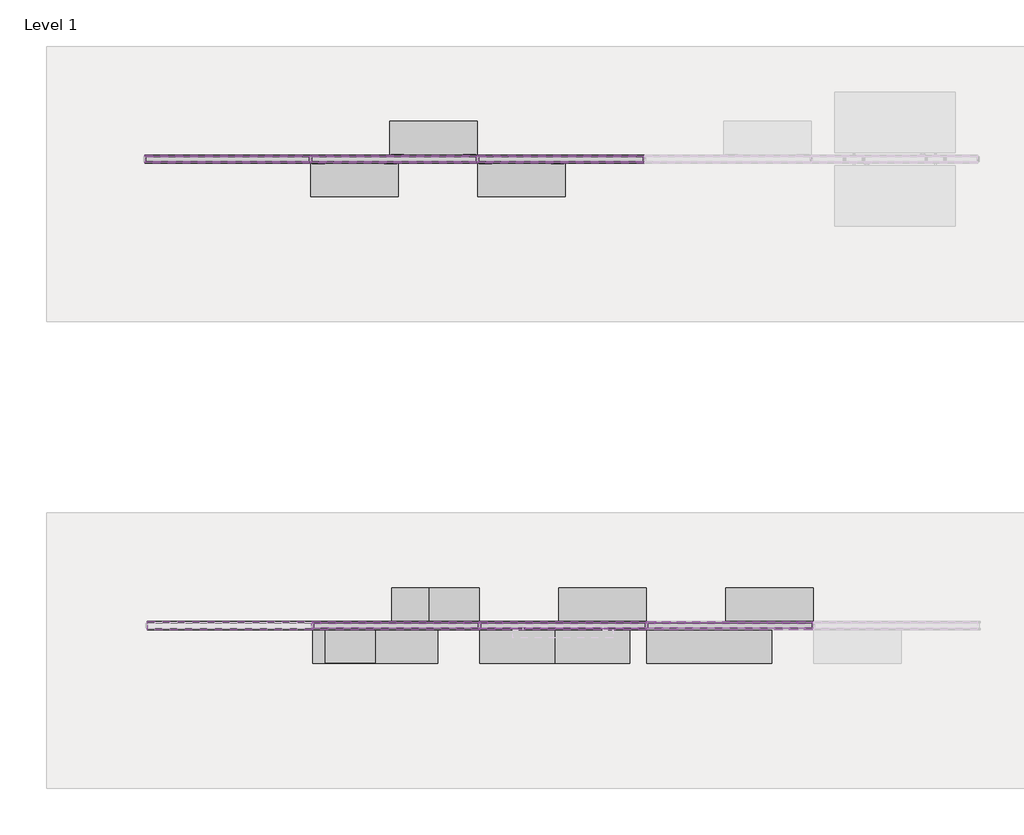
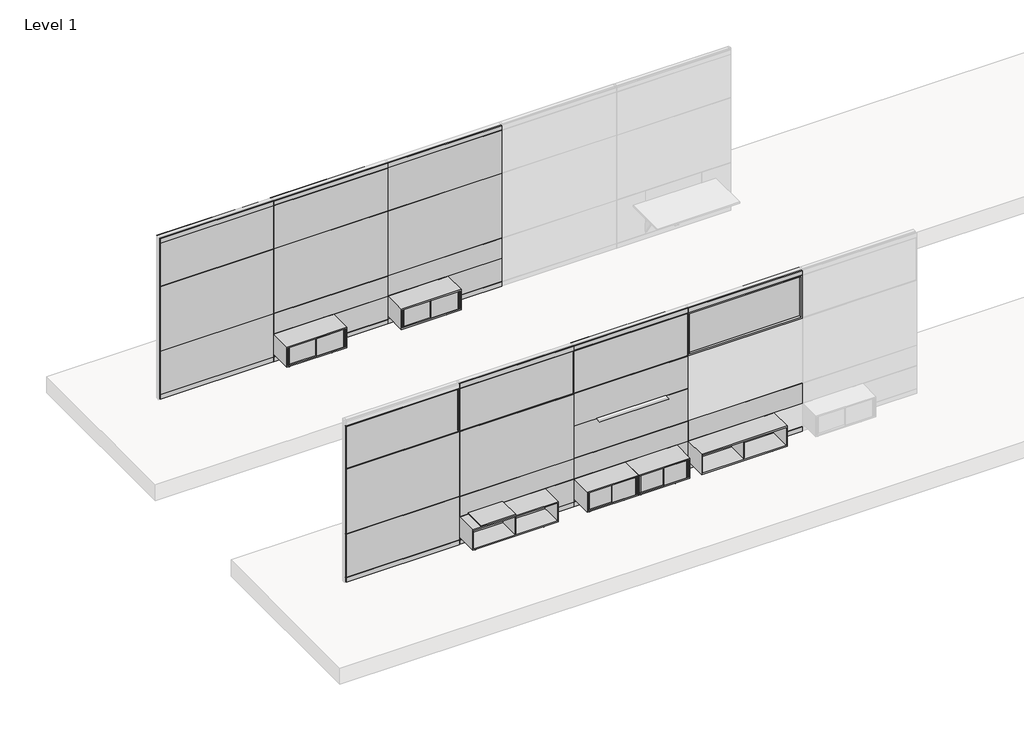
# One storey, part 5 of 13: 100 proxies, 12 furniture elements.
"""IFC4 building model written with IfcOpenShell, lengths in millimetres."""

from ifc_helpers import new_model, si_unit, origin, place, context, project, spatial, transform, mapped, element, save
from components import fascia_teknion_ceiling_and_base_ffb1_eec853f0, fascia_teknion_ceiling_and_base_ffb1_01755f40, fascia_teknion_ceiling_and_base_ffb1_57c76872, fascia_teknion_ceiling_and_base_ffb1_68f9ae85, frame_teknion_horizontal_rail_fkk_5c31f45b, frame_teknion_horizontal_rail_fkk_aab90c89, glass_fascia_dc85a8b2, glass_fascia_e9c48712, glass_fascia_e3078b55, panel_fascia_teknion_level_i_ec07af2e, panel_fascia_teknion_level_i_6b417b37, level_i_42ece40d, level_i_bottom_1aac6edf, level_i_bottom_7d6acad2, level_i_top_09e36e50, level_i_top_83d707e0, panel_fascia_teknion_level_ii_750ba18f, level_ii_bdfab47d, level_ii_231fb084, level_ii_554533ae, level_ii_bottom_3c53565b, panel_fascia_teknion_level_iii_34db1994, panel_fascia_teknion_level_iii_4fd3d2fe, level_iii_45eca7cc, level_iii_4951afc5, furniture_ea6b8f62, furniture_1aa36cc6, furniture_9e8aaa73, furniture_d19da1b5

model = new_model("IFC4")

# Units and contexts
model_context = context("Model", 3, world=origin())
ifc_project = project(units=[si_unit("LENGTHUNIT", "METRE", prefix="MILLI")], contexts=[model_context])

# Site, building, storey
site = spatial("IfcSite", under=ifc_project)
building = spatial("IfcBuilding", under=site)
storey = spatial("IfcBuildingStorey", under=building, Name="Level 1", Elevation=0.0)

# Proxies
placement = place(None, origin())
fascia_teknion_ceiling_and_base_ffb1_shape = fascia_teknion_ceiling_and_base_ffb1_eec853f0(model_context)
element("IfcBuildingElementProxy", 1, Name="Fascia-Teknion-Ceiling_and_Base : FFB1", ObjectType="Fascia-Teknion-Ceiling_and_Base : FFB1", at=placement, inside=storey, context=model_context, shape_type="MappedRepresentation", body=[
    mapped(fascia_teknion_ceiling_and_base_ffb1_shape, transform((-44846.9120053, 21833.4449796, 15.875), x_axis=(1.0, 0.0, 0.0), y_axis=(0.0, 1.0, 0.0), z_axis=(0.0, 0.0, 1.0))),
])
fascia_teknion_ceiling_and_base_ffb1_2_shape = fascia_teknion_ceiling_and_base_ffb1_01755f40(model_context)
element("IfcBuildingElementProxy", 2, Name="Fascia-Teknion-Ceiling_and_Base : FFB1", ObjectType="Fascia-Teknion-Ceiling_and_Base : FFB1", at=placement, inside=storey, context=model_context, shape_type="MappedRepresentation", body=[
    mapped(fascia_teknion_ceiling_and_base_ffb1_2_shape, transform((-44821.5120053, 16089.7429796, 15.875), x_axis=(1.0, 0.0, 0.0), y_axis=(0.0, 1.0, 0.0), z_axis=(0.0, 0.0, 1.0))),
])
element("IfcBuildingElementProxy", 3, Name="Fascia-Teknion-Ceiling_and_Base : FFB1", ObjectType="Fascia-Teknion-Ceiling_and_Base : FFB1", at=placement, inside=storey, context=model_context, shape_type="MappedRepresentation", body=[
    mapped(fascia_teknion_ceiling_and_base_ffb1_2_shape, transform((-44846.9120053, 21771.4689796, 15.875), x_axis=(1.0, 0.0, 0.0), y_axis=(0.0, 1.0, 0.0), z_axis=(0.0, 0.0, 1.0))),
])
fascia_teknion_ceiling_and_base_ffb1_3_shape = fascia_teknion_ceiling_and_base_ffb1_57c76872(model_context)
element("IfcBuildingElementProxy", 4, Name="Fascia-Teknion-Ceiling_and_Base : FFB1", ObjectType="Fascia-Teknion-Ceiling_and_Base : FFB1", at=placement, inside=storey, context=model_context, shape_type="MappedRepresentation", body=[
    mapped(fascia_teknion_ceiling_and_base_ffb1_3_shape, transform((-42796.5069272, 16151.7189796, 15.875), x_axis=(1.0, 0.0, 0.0), y_axis=(0.0, 1.0, 0.0), z_axis=(0.0, 0.0, 1.0))),
])
element("IfcBuildingElementProxy", 5, Name="Fascia-Teknion-Ceiling_and_Base : FFB1", ObjectType="Fascia-Teknion-Ceiling_and_Base : FFB1", at=placement, inside=storey, context=model_context, shape_type="MappedRepresentation", body=[
    mapped(fascia_teknion_ceiling_and_base_ffb1_3_shape, transform((-40764.5069272, 16151.7189796, 15.875), x_axis=(1.0, 0.0, 0.0), y_axis=(0.0, 1.0, 0.0), z_axis=(0.0, 0.0, 1.0))),
])
element("IfcBuildingElementProxy", 6, Name="Fascia-Teknion-Ceiling_and_Base : FFB1", ObjectType="Fascia-Teknion-Ceiling_and_Base : FFB1", at=placement, inside=storey, context=model_context, shape_type="MappedRepresentation", body=[
    mapped(fascia_teknion_ceiling_and_base_ffb1_3_shape, transform((-38732.5069272, 16151.7189796, 15.875), x_axis=(1.0, 0.0, 0.0), y_axis=(0.0, 1.0, 0.0), z_axis=(0.0, 0.0, 1.0))),
])
element("IfcBuildingElementProxy", 7, Name="Fascia-Teknion-Ceiling_and_Base : FFB1", ObjectType="Fascia-Teknion-Ceiling_and_Base : FFB1", at=placement, inside=storey, context=model_context, shape_type="MappedRepresentation", body=[
    mapped(fascia_teknion_ceiling_and_base_ffb1_3_shape, transform((-42821.9069272, 21833.4449796, 15.875), x_axis=(1.0, 0.0, 0.0), y_axis=(0.0, 1.0, 0.0), z_axis=(0.0, 0.0, 1.0))),
])
element("IfcBuildingElementProxy", 8, Name="Fascia-Teknion-Ceiling_and_Base : FFB1", ObjectType="Fascia-Teknion-Ceiling_and_Base : FFB1", at=placement, inside=storey, context=model_context, shape_type="MappedRepresentation", body=[
    mapped(fascia_teknion_ceiling_and_base_ffb1_3_shape, transform((-40789.9069272, 21833.4449796, 15.875), x_axis=(1.0, 0.0, 0.0), y_axis=(0.0, 1.0, 0.0), z_axis=(0.0, 0.0, 1.0))),
])
fascia_teknion_ceiling_and_base_ffb1_4_shape = fascia_teknion_ceiling_and_base_ffb1_68f9ae85(model_context)
element("IfcBuildingElementProxy", 9, Name="Fascia-Teknion-Ceiling_and_Base : FFB1", ObjectType="Fascia-Teknion-Ceiling_and_Base : FFB1", at=placement, inside=storey, context=model_context, shape_type="MappedRepresentation", body=[
    mapped(fascia_teknion_ceiling_and_base_ffb1_4_shape, transform((-42796.5069272, 16089.7429796, 15.875), x_axis=(1.0, 0.0, 0.0), y_axis=(0.0, 1.0, 0.0), z_axis=(0.0, 0.0, 1.0))),
])
element("IfcBuildingElementProxy", 10, Name="Fascia-Teknion-Ceiling_and_Base : FFB1", ObjectType="Fascia-Teknion-Ceiling_and_Base : FFB1", at=placement, inside=storey, context=model_context, shape_type="MappedRepresentation", body=[
    mapped(fascia_teknion_ceiling_and_base_ffb1_4_shape, transform((-40764.5069272, 16089.7429796, 15.875), x_axis=(1.0, 0.0, 0.0), y_axis=(0.0, 1.0, 0.0), z_axis=(0.0, 0.0, 1.0))),
])
element("IfcBuildingElementProxy", 11, Name="Fascia-Teknion-Ceiling_and_Base : FFB1", ObjectType="Fascia-Teknion-Ceiling_and_Base : FFB1", at=placement, inside=storey, context=model_context, shape_type="MappedRepresentation", body=[
    mapped(fascia_teknion_ceiling_and_base_ffb1_4_shape, transform((-38732.5069272, 16089.7429796, 15.875), x_axis=(1.0, 0.0, 0.0), y_axis=(0.0, 1.0, 0.0), z_axis=(0.0, 0.0, 1.0))),
])
element("IfcBuildingElementProxy", 12, Name="Fascia-Teknion-Ceiling_and_Base : FFB1", ObjectType="Fascia-Teknion-Ceiling_and_Base : FFB1", at=placement, inside=storey, context=model_context, shape_type="MappedRepresentation", body=[
    mapped(fascia_teknion_ceiling_and_base_ffb1_4_shape, transform((-42821.9069272, 21771.4689796, 15.875), x_axis=(1.0, 0.0, 0.0), y_axis=(0.0, 1.0, 0.0), z_axis=(0.0, 0.0, 1.0))),
])
element("IfcBuildingElementProxy", 13, Name="Fascia-Teknion-Ceiling_and_Base : FFB1", ObjectType="Fascia-Teknion-Ceiling_and_Base : FFB1", at=placement, inside=storey, context=model_context, shape_type="MappedRepresentation", body=[
    mapped(fascia_teknion_ceiling_and_base_ffb1_4_shape, transform((-40789.9069272, 21771.4689796, 15.875), x_axis=(1.0, 0.0, 0.0), y_axis=(0.0, 1.0, 0.0), z_axis=(0.0, 0.0, 1.0))),
])
element("IfcBuildingElementProxy", 14, Name="Fascia-Teknion-Ceiling_and_Base : FFC", ObjectType="Fascia-Teknion-Ceiling_and_Base : FFC", at=placement, inside=storey, context=model_context, shape_type="MappedRepresentation", body=[
    mapped(fascia_teknion_ceiling_and_base_ffb1_shape, transform((-44846.9120053, 21833.4449796, 2950.845), x_axis=(1.0, 0.0, 0.0), y_axis=(0.0, 1.0, 0.0), z_axis=(0.0, 0.0, 1.0))),
])
element("IfcBuildingElementProxy", 15, Name="Fascia-Teknion-Ceiling_and_Base : FFC", ObjectType="Fascia-Teknion-Ceiling_and_Base : FFC", at=placement, inside=storey, context=model_context, shape_type="MappedRepresentation", body=[
    mapped(fascia_teknion_ceiling_and_base_ffb1_2_shape, transform((-44846.9120053, 21771.4689796, 2950.845), x_axis=(1.0, 0.0, 0.0), y_axis=(0.0, 1.0, 0.0), z_axis=(0.0, 0.0, 1.0))),
])
element("IfcBuildingElementProxy", 16, Name="Fascia-Teknion-Ceiling_and_Base : FFC", ObjectType="Fascia-Teknion-Ceiling_and_Base : FFC", at=placement, inside=storey, context=model_context, shape_type="MappedRepresentation", body=[
    mapped(fascia_teknion_ceiling_and_base_ffb1_3_shape, transform((-42821.9069272, 21833.4449796, 2950.845), x_axis=(1.0, 0.0, 0.0), y_axis=(0.0, 1.0, 0.0), z_axis=(0.0, 0.0, 1.0))),
])
element("IfcBuildingElementProxy", 17, Name="Fascia-Teknion-Ceiling_and_Base : FFC", ObjectType="Fascia-Teknion-Ceiling_and_Base : FFC", at=placement, inside=storey, context=model_context, shape_type="MappedRepresentation", body=[
    mapped(fascia_teknion_ceiling_and_base_ffb1_3_shape, transform((-40789.9069272, 21833.4449796, 2950.845), x_axis=(1.0, 0.0, 0.0), y_axis=(0.0, 1.0, 0.0), z_axis=(0.0, 0.0, 1.0))),
])
element("IfcBuildingElementProxy", 18, Name="Fascia-Teknion-Ceiling_and_Base : FFC", ObjectType="Fascia-Teknion-Ceiling_and_Base : FFC", at=placement, inside=storey, context=model_context, shape_type="MappedRepresentation", body=[
    mapped(fascia_teknion_ceiling_and_base_ffb1_3_shape, transform((-42796.5069272, 16151.7189796, 2950.845), x_axis=(1.0, 0.0, 0.0), y_axis=(0.0, 1.0, 0.0), z_axis=(0.0, 0.0, 1.0))),
])
element("IfcBuildingElementProxy", 19, Name="Fascia-Teknion-Ceiling_and_Base : FFC", ObjectType="Fascia-Teknion-Ceiling_and_Base : FFC", at=placement, inside=storey, context=model_context, shape_type="MappedRepresentation", body=[
    mapped(fascia_teknion_ceiling_and_base_ffb1_3_shape, transform((-40764.5069272, 16151.7189796, 2950.845), x_axis=(1.0, 0.0, 0.0), y_axis=(0.0, 1.0, 0.0), z_axis=(0.0, 0.0, 1.0))),
])
element("IfcBuildingElementProxy", 20, Name="Fascia-Teknion-Ceiling_and_Base : FFC", ObjectType="Fascia-Teknion-Ceiling_and_Base : FFC", at=placement, inside=storey, context=model_context, shape_type="MappedRepresentation", body=[
    mapped(fascia_teknion_ceiling_and_base_ffb1_3_shape, transform((-38732.5069272, 16151.7189796, 2950.845), x_axis=(1.0, 0.0, 0.0), y_axis=(0.0, 1.0, 0.0), z_axis=(0.0, 0.0, 1.0))),
])
element("IfcBuildingElementProxy", 21, Name="Fascia-Teknion-Ceiling_and_Base : FFC", ObjectType="Fascia-Teknion-Ceiling_and_Base : FFC", at=placement, inside=storey, context=model_context, shape_type="MappedRepresentation", body=[
    mapped(fascia_teknion_ceiling_and_base_ffb1_4_shape, transform((-42821.9069272, 21771.4689796, 2950.845), x_axis=(1.0, 0.0, 0.0), y_axis=(0.0, 1.0, 0.0), z_axis=(0.0, 0.0, 1.0))),
])
element("IfcBuildingElementProxy", 22, Name="Fascia-Teknion-Ceiling_and_Base : FFC", ObjectType="Fascia-Teknion-Ceiling_and_Base : FFC", at=placement, inside=storey, context=model_context, shape_type="MappedRepresentation", body=[
    mapped(fascia_teknion_ceiling_and_base_ffb1_4_shape, transform((-40789.9069272, 21771.4689796, 2950.845), x_axis=(1.0, 0.0, 0.0), y_axis=(0.0, 1.0, 0.0), z_axis=(0.0, 0.0, 1.0))),
])
element("IfcBuildingElementProxy", 23, Name="Fascia-Teknion-Ceiling_and_Base : FFC", ObjectType="Fascia-Teknion-Ceiling_and_Base : FFC", at=placement, inside=storey, context=model_context, shape_type="MappedRepresentation", body=[
    mapped(fascia_teknion_ceiling_and_base_ffb1_4_shape, transform((-42796.5069272, 16089.7429796, 2950.845), x_axis=(1.0, 0.0, 0.0), y_axis=(0.0, 1.0, 0.0), z_axis=(0.0, 0.0, 1.0))),
])
element("IfcBuildingElementProxy", 24, Name="Fascia-Teknion-Ceiling_and_Base : FFC", ObjectType="Fascia-Teknion-Ceiling_and_Base : FFC", at=placement, inside=storey, context=model_context, shape_type="MappedRepresentation", body=[
    mapped(fascia_teknion_ceiling_and_base_ffb1_4_shape, transform((-40764.5069272, 16089.7429796, 2950.845), x_axis=(1.0, 0.0, 0.0), y_axis=(0.0, 1.0, 0.0), z_axis=(0.0, 0.0, 1.0))),
])
element("IfcBuildingElementProxy", 25, Name="Fascia-Teknion-Ceiling_and_Base : FFC", ObjectType="Fascia-Teknion-Ceiling_and_Base : FFC", at=placement, inside=storey, context=model_context, shape_type="MappedRepresentation", body=[
    mapped(fascia_teknion_ceiling_and_base_ffb1_4_shape, transform((-38732.5069272, 16089.7429796, 2950.845), x_axis=(1.0, 0.0, 0.0), y_axis=(0.0, 1.0, 0.0), z_axis=(0.0, 0.0, 1.0))),
])
frame_teknion_horizontal_rail_fkk_shape = frame_teknion_horizontal_rail_fkk_5c31f45b(model_context)
element("IfcBuildingElementProxy", 26, Name="Frame-Teknion-Horizontal_Rail : FKK", ObjectType="Frame-Teknion-Horizontal_Rail : FKK", at=placement, inside=storey, context=model_context, shape_type="MappedRepresentation", body=[
    mapped(frame_teknion_horizontal_rail_fkk_shape, transform((-44846.9120053, 21802.4569796, 100.4514438), x_axis=(1.0, 0.0, 0.0), y_axis=(0.0, 1.0, 0.0), z_axis=(0.0, 0.0, 1.0))),
])
element("IfcBuildingElementProxy", 27, Name="Frame-Teknion-Horizontal_Rail : FKK", ObjectType="Frame-Teknion-Horizontal_Rail : FKK", at=placement, inside=storey, context=model_context, shape_type="MappedRepresentation", body=[
    mapped(frame_teknion_horizontal_rail_fkk_shape, transform((-44846.9120053, 21802.4569796, 2947.5374437), x_axis=(1.0, 0.0, 0.0), y_axis=(0.0, 1.0, 0.0), z_axis=(0.0, 0.0, 1.0))),
])
frame_teknion_horizontal_rail_fkk_2_shape = frame_teknion_horizontal_rail_fkk_aab90c89(model_context)
element("IfcBuildingElementProxy", 28, Name="Frame-Teknion-Horizontal_Rail : FKK", ObjectType="Frame-Teknion-Horizontal_Rail : FKK", at=placement, inside=storey, context=model_context, shape_type="MappedRepresentation", body=[
    mapped(frame_teknion_horizontal_rail_fkk_2_shape, transform((-42821.9069272, 21802.4569796, 100.4514438), x_axis=(1.0, 0.0, 0.0), y_axis=(0.0, 1.0, 0.0), z_axis=(0.0, 0.0, 1.0))),
])
element("IfcBuildingElementProxy", 29, Name="Frame-Teknion-Horizontal_Rail : FKK", ObjectType="Frame-Teknion-Horizontal_Rail : FKK", at=placement, inside=storey, context=model_context, shape_type="MappedRepresentation", body=[
    mapped(frame_teknion_horizontal_rail_fkk_2_shape, transform((-42821.9069272, 21802.4569796, 2947.5374437), x_axis=(1.0, 0.0, 0.0), y_axis=(0.0, 1.0, 0.0), z_axis=(0.0, 0.0, 1.0))),
])
element("IfcBuildingElementProxy", 30, Name="Frame-Teknion-Horizontal_Rail : FKK", ObjectType="Frame-Teknion-Horizontal_Rail : FKK", at=placement, inside=storey, context=model_context, shape_type="MappedRepresentation", body=[
    mapped(frame_teknion_horizontal_rail_fkk_2_shape, transform((-40789.9069272, 21802.4569796, 100.4514438), x_axis=(1.0, 0.0, 0.0), y_axis=(0.0, 1.0, 0.0), z_axis=(0.0, 0.0, 1.0))),
])
element("IfcBuildingElementProxy", 31, Name="Frame-Teknion-Horizontal_Rail : FKK", ObjectType="Frame-Teknion-Horizontal_Rail : FKK", at=placement, inside=storey, context=model_context, shape_type="MappedRepresentation", body=[
    mapped(frame_teknion_horizontal_rail_fkk_2_shape, transform((-40789.9069272, 21802.4569796, 2947.5374437), x_axis=(1.0, 0.0, 0.0), y_axis=(0.0, 1.0, 0.0), z_axis=(0.0, 0.0, 1.0))),
])
element("IfcBuildingElementProxy", 32, Name="Frame-Teknion-Horizontal_Rail : FKK", ObjectType="Frame-Teknion-Horizontal_Rail : FKK", at=placement, inside=storey, context=model_context, shape_type="MappedRepresentation", body=[
    mapped(frame_teknion_horizontal_rail_fkk_2_shape, transform((-42796.5069272, 16120.7309796, 100.4514438), x_axis=(1.0, 0.0, 0.0), y_axis=(0.0, 1.0, 0.0), z_axis=(0.0, 0.0, 1.0))),
])
element("IfcBuildingElementProxy", 33, Name="Frame-Teknion-Horizontal_Rail : FKK", ObjectType="Frame-Teknion-Horizontal_Rail : FKK", at=placement, inside=storey, context=model_context, shape_type="MappedRepresentation", body=[
    mapped(frame_teknion_horizontal_rail_fkk_2_shape, transform((-42796.5069272, 16120.7309796, 2947.5374437), x_axis=(1.0, 0.0, 0.0), y_axis=(0.0, 1.0, 0.0), z_axis=(0.0, 0.0, 1.0))),
])
element("IfcBuildingElementProxy", 34, Name="Frame-Teknion-Horizontal_Rail : FKK", ObjectType="Frame-Teknion-Horizontal_Rail : FKK", at=placement, inside=storey, context=model_context, shape_type="MappedRepresentation", body=[
    mapped(frame_teknion_horizontal_rail_fkk_2_shape, transform((-40764.5069272, 16120.7309796, 100.4514438), x_axis=(1.0, 0.0, 0.0), y_axis=(0.0, 1.0, 0.0), z_axis=(0.0, 0.0, 1.0))),
])
element("IfcBuildingElementProxy", 35, Name="Frame-Teknion-Horizontal_Rail : FKK", ObjectType="Frame-Teknion-Horizontal_Rail : FKK", at=placement, inside=storey, context=model_context, shape_type="MappedRepresentation", body=[
    mapped(frame_teknion_horizontal_rail_fkk_2_shape, transform((-40764.5069272, 16120.7309796, 2947.5374437), x_axis=(1.0, 0.0, 0.0), y_axis=(0.0, 1.0, 0.0), z_axis=(0.0, 0.0, 1.0))),
])
element("IfcBuildingElementProxy", 36, Name="Frame-Teknion-Horizontal_Rail : FKK", ObjectType="Frame-Teknion-Horizontal_Rail : FKK", at=placement, inside=storey, context=model_context, shape_type="MappedRepresentation", body=[
    mapped(frame_teknion_horizontal_rail_fkk_2_shape, transform((-38732.5069272, 16120.7309796, 100.4514438), x_axis=(1.0, 0.0, 0.0), y_axis=(0.0, 1.0, 0.0), z_axis=(0.0, 0.0, 1.0))),
])
element("IfcBuildingElementProxy", 37, Name="Frame-Teknion-Horizontal_Rail : FKK", ObjectType="Frame-Teknion-Horizontal_Rail : FKK", at=placement, inside=storey, context=model_context, shape_type="MappedRepresentation", body=[
    mapped(frame_teknion_horizontal_rail_fkk_2_shape, transform((-38732.5069272, 16120.7309796, 2947.5374437), x_axis=(1.0, 0.0, 0.0), y_axis=(0.0, 1.0, 0.0), z_axis=(0.0, 0.0, 1.0))),
])
element("IfcBuildingElementProxy", 38, Name="Frame-Teknion-Landscape_Horizontal_Rail : FLKH", ObjectType="Frame-Teknion-Landscape_Horizontal_Rail : FLKH", at=placement, inside=storey, context=model_context, shape_type="MappedRepresentation", body=[
    mapped(frame_teknion_horizontal_rail_fkk_shape, transform((-44846.9120053, 21802.4569796, 917.575), x_axis=(1.0, 0.0, 0.0), y_axis=(0.0, 1.0, 0.0), z_axis=(0.0, 0.0, 1.0))),
])
element("IfcBuildingElementProxy", 39, Name="Frame-Teknion-Landscape_Horizontal_Rail : FLKH", ObjectType="Frame-Teknion-Landscape_Horizontal_Rail : FLKH", at=placement, inside=storey, context=model_context, shape_type="MappedRepresentation", body=[
    mapped(frame_teknion_horizontal_rail_fkk_shape, transform((-44846.9120053, 21802.4569796, 2136.775), x_axis=(1.0, 0.0, 0.0), y_axis=(0.0, 1.0, 0.0), z_axis=(0.0, 0.0, 1.0))),
])
element("IfcBuildingElementProxy", 40, Name="Frame-Teknion-Landscape_Horizontal_Rail : FLKH", ObjectType="Frame-Teknion-Landscape_Horizontal_Rail : FLKH", at=placement, inside=storey, context=model_context, shape_type="MappedRepresentation", body=[
    mapped(frame_teknion_horizontal_rail_fkk_2_shape, transform((-42821.9069272, 21802.4569796, 917.575), x_axis=(1.0, 0.0, 0.0), y_axis=(0.0, 1.0, 0.0), z_axis=(0.0, 0.0, 1.0))),
])
element("IfcBuildingElementProxy", 41, Name="Frame-Teknion-Landscape_Horizontal_Rail : FLKH", ObjectType="Frame-Teknion-Landscape_Horizontal_Rail : FLKH", at=placement, inside=storey, context=model_context, shape_type="MappedRepresentation", body=[
    mapped(frame_teknion_horizontal_rail_fkk_2_shape, transform((-42821.9069272, 21802.4569796, 2136.775), x_axis=(1.0, 0.0, 0.0), y_axis=(0.0, 1.0, 0.0), z_axis=(0.0, 0.0, 1.0))),
])
element("IfcBuildingElementProxy", 42, Name="Frame-Teknion-Landscape_Horizontal_Rail : FLKH", ObjectType="Frame-Teknion-Landscape_Horizontal_Rail : FLKH", at=placement, inside=storey, context=model_context, shape_type="MappedRepresentation", body=[
    mapped(frame_teknion_horizontal_rail_fkk_2_shape, transform((-40789.9069272, 21802.4569796, 917.575), x_axis=(1.0, 0.0, 0.0), y_axis=(0.0, 1.0, 0.0), z_axis=(0.0, 0.0, 1.0))),
])
element("IfcBuildingElementProxy", 43, Name="Frame-Teknion-Landscape_Horizontal_Rail : FLKH", ObjectType="Frame-Teknion-Landscape_Horizontal_Rail : FLKH", at=placement, inside=storey, context=model_context, shape_type="MappedRepresentation", body=[
    mapped(frame_teknion_horizontal_rail_fkk_2_shape, transform((-40789.9069272, 21802.4569796, 2136.775), x_axis=(1.0, 0.0, 0.0), y_axis=(0.0, 1.0, 0.0), z_axis=(0.0, 0.0, 1.0))),
])
element("IfcBuildingElementProxy", 44, Name="Frame-Teknion-Landscape_Horizontal_Rail : FLKH", ObjectType="Frame-Teknion-Landscape_Horizontal_Rail : FLKH", at=placement, inside=storey, context=model_context, shape_type="MappedRepresentation", body=[
    mapped(frame_teknion_horizontal_rail_fkk_2_shape, transform((-42821.9069272, 21802.4569796, 536.575), x_axis=(1.0, 0.0, 0.0), y_axis=(0.0, 1.0, 0.0), z_axis=(0.0, 0.0, 1.0))),
])
element("IfcBuildingElementProxy", 45, Name="Frame-Teknion-Landscape_Horizontal_Rail : FLKH", ObjectType="Frame-Teknion-Landscape_Horizontal_Rail : FLKH", at=placement, inside=storey, context=model_context, shape_type="MappedRepresentation", body=[
    mapped(frame_teknion_horizontal_rail_fkk_2_shape, transform((-40789.9069272, 21802.4569796, 536.575), x_axis=(1.0, 0.0, 0.0), y_axis=(0.0, 1.0, 0.0), z_axis=(0.0, 0.0, 1.0))),
])
element("IfcBuildingElementProxy", 46, Name="Frame-Teknion-Landscape_Horizontal_Rail : FLKH", ObjectType="Frame-Teknion-Landscape_Horizontal_Rail : FLKH", at=placement, inside=storey, context=model_context, shape_type="MappedRepresentation", body=[
    mapped(frame_teknion_horizontal_rail_fkk_2_shape, transform((-42796.5069272, 16120.7309796, 917.575), x_axis=(1.0, 0.0, 0.0), y_axis=(0.0, 1.0, 0.0), z_axis=(0.0, 0.0, 1.0))),
])
element("IfcBuildingElementProxy", 47, Name="Frame-Teknion-Landscape_Horizontal_Rail : FLKH", ObjectType="Frame-Teknion-Landscape_Horizontal_Rail : FLKH", at=placement, inside=storey, context=model_context, shape_type="MappedRepresentation", body=[
    mapped(frame_teknion_horizontal_rail_fkk_2_shape, transform((-42796.5069272, 16120.7309796, 2136.775), x_axis=(1.0, 0.0, 0.0), y_axis=(0.0, 1.0, 0.0), z_axis=(0.0, 0.0, 1.0))),
])
element("IfcBuildingElementProxy", 48, Name="Frame-Teknion-Landscape_Horizontal_Rail : FLKH", ObjectType="Frame-Teknion-Landscape_Horizontal_Rail : FLKH", at=placement, inside=storey, context=model_context, shape_type="MappedRepresentation", body=[
    mapped(frame_teknion_horizontal_rail_fkk_2_shape, transform((-40764.5069272, 16120.7309796, 917.575), x_axis=(1.0, 0.0, 0.0), y_axis=(0.0, 1.0, 0.0), z_axis=(0.0, 0.0, 1.0))),
])
element("IfcBuildingElementProxy", 49, Name="Frame-Teknion-Landscape_Horizontal_Rail : FLKH", ObjectType="Frame-Teknion-Landscape_Horizontal_Rail : FLKH", at=placement, inside=storey, context=model_context, shape_type="MappedRepresentation", body=[
    mapped(frame_teknion_horizontal_rail_fkk_2_shape, transform((-40764.5069272, 16120.7309796, 2136.775), x_axis=(1.0, 0.0, 0.0), y_axis=(0.0, 1.0, 0.0), z_axis=(0.0, 0.0, 1.0))),
])
element("IfcBuildingElementProxy", 50, Name="Frame-Teknion-Landscape_Horizontal_Rail : FLKH", ObjectType="Frame-Teknion-Landscape_Horizontal_Rail : FLKH", at=placement, inside=storey, context=model_context, shape_type="MappedRepresentation", body=[
    mapped(frame_teknion_horizontal_rail_fkk_2_shape, transform((-38732.5069272, 16120.7309796, 917.575), x_axis=(1.0, 0.0, 0.0), y_axis=(0.0, 1.0, 0.0), z_axis=(0.0, 0.0, 1.0))),
])
element("IfcBuildingElementProxy", 51, Name="Frame-Teknion-Landscape_Horizontal_Rail : FLKH", ObjectType="Frame-Teknion-Landscape_Horizontal_Rail : FLKH", at=placement, inside=storey, context=model_context, shape_type="MappedRepresentation", body=[
    mapped(frame_teknion_horizontal_rail_fkk_2_shape, transform((-38732.5069272, 16120.7309796, 2136.775), x_axis=(1.0, 0.0, 0.0), y_axis=(0.0, 1.0, 0.0), z_axis=(0.0, 0.0, 1.0))),
])
element("IfcBuildingElementProxy", 52, Name="Frame-Teknion-Landscape_Horizontal_Rail : FLKH", ObjectType="Frame-Teknion-Landscape_Horizontal_Rail : FLKH", at=placement, inside=storey, context=model_context, shape_type="MappedRepresentation", body=[
    mapped(frame_teknion_horizontal_rail_fkk_2_shape, transform((-38732.5069272, 16120.7309796, 536.575), x_axis=(1.0, 0.0, 0.0), y_axis=(0.0, 1.0, 0.0), z_axis=(0.0, 0.0, 1.0))),
])
element("IfcBuildingElementProxy", 53, Name="Frame-Teknion-Landscape_Horizontal_Rail : FLKH", ObjectType="Frame-Teknion-Landscape_Horizontal_Rail : FLKH", at=placement, inside=storey, context=model_context, shape_type="MappedRepresentation", body=[
    mapped(frame_teknion_horizontal_rail_fkk_2_shape, transform((-42796.5069272, 16120.7309796, 536.575), x_axis=(1.0, 0.0, 0.0), y_axis=(0.0, 1.0, 0.0), z_axis=(0.0, 0.0, 1.0))),
])
element("IfcBuildingElementProxy", 54, Name="Frame-Teknion-Landscape_Horizontal_Rail : FLKH", ObjectType="Frame-Teknion-Landscape_Horizontal_Rail : FLKH", at=placement, inside=storey, context=model_context, shape_type="MappedRepresentation", body=[
    mapped(frame_teknion_horizontal_rail_fkk_2_shape, transform((-40764.5069272, 16120.7309796, 536.575), x_axis=(1.0, 0.0, 0.0), y_axis=(0.0, 1.0, 0.0), z_axis=(0.0, 0.0, 1.0))),
])
element("IfcBuildingElementProxy", 55, Name="Frame-Teknion-Landscape_Horizontal_Rail : FLKH", ObjectType="Frame-Teknion-Landscape_Horizontal_Rail : FLKH", at=placement, inside=storey, context=model_context, shape_type="MappedRepresentation", body=[
    mapped(frame_teknion_horizontal_rail_fkk_2_shape, transform((-40764.5069272, 16120.7309796, 1527.175), x_axis=(1.0, 0.0, 0.0), y_axis=(0.0, 1.0, 0.0), z_axis=(0.0, 0.0, 1.0))),
])
glass_fascia_shape = glass_fascia_dc85a8b2(model_context)
element("IfcBuildingElementProxy", 56, Name="Panel-Fascia-Teknion-Altos-Glass : Glass Fascia", ObjectType="Panel-Fascia-Teknion-Altos-Glass : Glass Fascia", at=placement, inside=storey, context=model_context, shape_type="MappedRepresentation", body=[
    mapped(glass_fascia_shape, transform((-44821.5120053, 16120.748839, 2136.775), x_axis=(1.0, 0.0, 0.0), y_axis=(0.0, 1.0, 0.0), z_axis=(0.0, 0.0, 1.0))),
])
glass_fascia_2_shape = glass_fascia_e9c48712(model_context)
element("IfcBuildingElementProxy", 57, Name="Panel-Fascia-Teknion-Altos-Glass : Glass Fascia", ObjectType="Panel-Fascia-Teknion-Altos-Glass : Glass Fascia", at=placement, inside=storey, context=model_context, shape_type="MappedRepresentation", body=[
    mapped(glass_fascia_2_shape, transform((-38732.5069272, 16120.748839, 2136.775), x_axis=(1.0, 0.0, 0.0), y_axis=(0.0, 1.0, 0.0), z_axis=(0.0, 0.0, 1.0))),
])
glass_fascia_3_shape = glass_fascia_e3078b55(model_context)
element("IfcBuildingElementProxy", 58, Name="Panel-Fascia-Teknion-Altos-Glass : Glass Fascia", ObjectType="Panel-Fascia-Teknion-Altos-Glass : Glass Fascia", at=placement, inside=storey, context=model_context, shape_type="MappedRepresentation", body=[
    mapped(glass_fascia_3_shape, transform((-42796.5069272, 16120.748839, 2136.775), x_axis=(1.0, 0.0, 0.0), y_axis=(0.0, 1.0, 0.0), z_axis=(0.0, 0.0, 1.0))),
])
element("IfcBuildingElementProxy", 59, Name="Panel-Fascia-Teknion-Altos-Glass : Glass Fascia", ObjectType="Panel-Fascia-Teknion-Altos-Glass : Glass Fascia", at=placement, inside=storey, context=model_context, shape_type="MappedRepresentation", body=[
    mapped(glass_fascia_3_shape, transform((-40764.5069272, 16120.748839, 2136.775), x_axis=(1.0, 0.0, 0.0), y_axis=(0.0, 1.0, 0.0), z_axis=(0.0, 0.0, 1.0))),
])
panel_fascia_teknion_level_i_shape = panel_fascia_teknion_level_i_ec07af2e(model_context)
element("IfcBuildingElementProxy", 60, Name="Panel-Fascia-Teknion-Altos-Landscape : Level I", ObjectType="Panel-Fascia-Teknion-Altos-Landscape : Level I", at=placement, inside=storey, context=model_context, shape_type="MappedRepresentation", body=[
    mapped(panel_fascia_teknion_level_i_shape, transform((-44846.9120053, 21842.9699796, 100.457), x_axis=(1.0, 0.0, 0.0), y_axis=(0.0, 1.0, 0.0), z_axis=(0.0, 0.0, 1.0))),
])
element("IfcBuildingElementProxy", 61, Name="Panel-Fascia-Teknion-Altos-Landscape : Level I", ObjectType="Panel-Fascia-Teknion-Altos-Landscape : Level I", at=placement, inside=storey, context=model_context, shape_type="MappedRepresentation", body=[
    mapped(panel_fascia_teknion_level_i_shape, transform((-44821.5120053, 16161.2439796, 100.457), x_axis=(1.0, 0.0, 0.0), y_axis=(0.0, 1.0, 0.0), z_axis=(0.0, 0.0, 1.0))),
])
panel_fascia_teknion_level_i_2_shape = panel_fascia_teknion_level_i_6b417b37(model_context)
element("IfcBuildingElementProxy", 62, Name="Panel-Fascia-Teknion-Altos-Landscape : Level I", ObjectType="Panel-Fascia-Teknion-Altos-Landscape : Level I", at=placement, inside=storey, context=model_context, shape_type="MappedRepresentation", body=[
    mapped(panel_fascia_teknion_level_i_2_shape, transform((-44846.9120053, 21761.9439796, 100.457), x_axis=(1.0, 0.0, 0.0), y_axis=(0.0, 1.0, 0.0), z_axis=(0.0, 0.0, 1.0))),
])
element("IfcBuildingElementProxy", 63, Name="Panel-Fascia-Teknion-Altos-Landscape : Level I", ObjectType="Panel-Fascia-Teknion-Altos-Landscape : Level I", at=placement, inside=storey, context=model_context, shape_type="MappedRepresentation", body=[
    mapped(panel_fascia_teknion_level_i_2_shape, transform((-44821.5120053, 16080.2179796, 100.457), x_axis=(1.0, 0.0, 0.0), y_axis=(0.0, 1.0, 0.0), z_axis=(0.0, 0.0, 1.0))),
])
level_i_shape = level_i_42ece40d(model_context)
element("IfcBuildingElementProxy", 64, Name="Panel-Fascia-Teknion-Altos-Landscape : Level I", ObjectType="Panel-Fascia-Teknion-Altos-Landscape : Level I", at=placement, inside=storey, context=model_context, shape_type="MappedRepresentation", body=[
    mapped(level_i_shape, transform((-40789.9069272, 21842.9699796, 100.457), x_axis=(1.0, 0.0, 0.0), y_axis=(0.0, 1.0, 0.0), z_axis=(0.0, 0.0, 1.0))),
])
level_i_bottom_shape = level_i_bottom_1aac6edf(model_context)
element("IfcBuildingElementProxy", 65, Name="Panel-Fascia-Teknion-Altos-Landscape : Level I Bottom", ObjectType="Panel-Fascia-Teknion-Altos-Landscape : Level I Bottom", at=placement, inside=storey, context=model_context, shape_type="MappedRepresentation", body=[
    mapped(level_i_bottom_shape, transform((-38732.5069272, 16161.2439796, 100.457), x_axis=(1.0, 0.0, 0.0), y_axis=(0.0, 1.0, 0.0), z_axis=(0.0, 0.0, 1.0))),
])
element("IfcBuildingElementProxy", 66, Name="Panel-Fascia-Teknion-Altos-Landscape : Level I Bottom", ObjectType="Panel-Fascia-Teknion-Altos-Landscape : Level I Bottom", at=placement, inside=storey, context=model_context, shape_type="MappedRepresentation", body=[
    mapped(level_i_bottom_shape, transform((-42821.9069272, 21842.9699796, 100.457), x_axis=(1.0, 0.0, 0.0), y_axis=(0.0, 1.0, 0.0), z_axis=(0.0, 0.0, 1.0))),
])
element("IfcBuildingElementProxy", 67, Name="Panel-Fascia-Teknion-Altos-Landscape : Level I Bottom", ObjectType="Panel-Fascia-Teknion-Altos-Landscape : Level I Bottom", at=placement, inside=storey, context=model_context, shape_type="MappedRepresentation", body=[
    mapped(level_i_bottom_shape, transform((-42796.5069272, 16161.2439796, 100.457), x_axis=(1.0, 0.0, 0.0), y_axis=(0.0, 1.0, 0.0), z_axis=(0.0, 0.0, 1.0))),
])
element("IfcBuildingElementProxy", 68, Name="Panel-Fascia-Teknion-Altos-Landscape : Level I Bottom", ObjectType="Panel-Fascia-Teknion-Altos-Landscape : Level I Bottom", at=placement, inside=storey, context=model_context, shape_type="MappedRepresentation", body=[
    mapped(level_i_bottom_shape, transform((-40764.5069272, 16161.2439796, 100.457), x_axis=(1.0, 0.0, 0.0), y_axis=(0.0, 1.0, 0.0), z_axis=(0.0, 0.0, 1.0))),
])
level_i_bottom_2_shape = level_i_bottom_7d6acad2(model_context)
element("IfcBuildingElementProxy", 69, Name="Panel-Fascia-Teknion-Altos-Landscape : Level I Bottom", ObjectType="Panel-Fascia-Teknion-Altos-Landscape : Level I Bottom", at=placement, inside=storey, context=model_context, shape_type="MappedRepresentation", body=[
    mapped(level_i_bottom_2_shape, transform((-42821.9069272, 21761.9439796, 100.457), x_axis=(1.0, 0.0, 0.0), y_axis=(0.0, 1.0, 0.0), z_axis=(0.0, 0.0, 1.0))),
])
element("IfcBuildingElementProxy", 70, Name="Panel-Fascia-Teknion-Altos-Landscape : Level I Bottom", ObjectType="Panel-Fascia-Teknion-Altos-Landscape : Level I Bottom", at=placement, inside=storey, context=model_context, shape_type="MappedRepresentation", body=[
    mapped(level_i_bottom_2_shape, transform((-40789.9069272, 21761.9439796, 100.457), x_axis=(1.0, 0.0, 0.0), y_axis=(0.0, 1.0, 0.0), z_axis=(0.0, 0.0, 1.0))),
])
element("IfcBuildingElementProxy", 71, Name="Panel-Fascia-Teknion-Altos-Landscape : Level I Bottom", ObjectType="Panel-Fascia-Teknion-Altos-Landscape : Level I Bottom", at=placement, inside=storey, context=model_context, shape_type="MappedRepresentation", body=[
    mapped(level_i_bottom_2_shape, transform((-42796.5069272, 16080.2179796, 100.457), x_axis=(1.0, 0.0, 0.0), y_axis=(0.0, 1.0, 0.0), z_axis=(0.0, 0.0, 1.0))),
])
element("IfcBuildingElementProxy", 72, Name="Panel-Fascia-Teknion-Altos-Landscape : Level I Bottom", ObjectType="Panel-Fascia-Teknion-Altos-Landscape : Level I Bottom", at=placement, inside=storey, context=model_context, shape_type="MappedRepresentation", body=[
    mapped(level_i_bottom_2_shape, transform((-40764.5069272, 16080.2179796, 100.457), x_axis=(1.0, 0.0, 0.0), y_axis=(0.0, 1.0, 0.0), z_axis=(0.0, 0.0, 1.0))),
])
level_i_top_shape = level_i_top_09e36e50(model_context)
element("IfcBuildingElementProxy", 73, Name="Panel-Fascia-Teknion-Altos-Landscape : Level I Top", ObjectType="Panel-Fascia-Teknion-Altos-Landscape : Level I Top", at=placement, inside=storey, context=model_context, shape_type="MappedRepresentation", body=[
    mapped(level_i_top_shape, transform((-38732.5069272, 16161.2439796, 536.575), x_axis=(1.0, 0.0, 0.0), y_axis=(0.0, 1.0, 0.0), z_axis=(0.0, 0.0, 1.0))),
])
element("IfcBuildingElementProxy", 74, Name="Panel-Fascia-Teknion-Altos-Landscape : Level I Top", ObjectType="Panel-Fascia-Teknion-Altos-Landscape : Level I Top", at=placement, inside=storey, context=model_context, shape_type="MappedRepresentation", body=[
    mapped(level_i_top_shape, transform((-42821.9069272, 21842.9699796, 536.575), x_axis=(1.0, 0.0, 0.0), y_axis=(0.0, 1.0, 0.0), z_axis=(0.0, 0.0, 1.0))),
])
element("IfcBuildingElementProxy", 75, Name="Panel-Fascia-Teknion-Altos-Landscape : Level I Top", ObjectType="Panel-Fascia-Teknion-Altos-Landscape : Level I Top", at=placement, inside=storey, context=model_context, shape_type="MappedRepresentation", body=[
    mapped(level_i_top_shape, transform((-42796.5069272, 16161.2439796, 536.575), x_axis=(1.0, 0.0, 0.0), y_axis=(0.0, 1.0, 0.0), z_axis=(0.0, 0.0, 1.0))),
])
element("IfcBuildingElementProxy", 76, Name="Panel-Fascia-Teknion-Altos-Landscape : Level I Top", ObjectType="Panel-Fascia-Teknion-Altos-Landscape : Level I Top", at=placement, inside=storey, context=model_context, shape_type="MappedRepresentation", body=[
    mapped(level_i_top_shape, transform((-40764.5069272, 16161.2439796, 536.575), x_axis=(1.0, 0.0, 0.0), y_axis=(0.0, 1.0, 0.0), z_axis=(0.0, 0.0, 1.0))),
])
level_i_top_2_shape = level_i_top_83d707e0(model_context)
element("IfcBuildingElementProxy", 77, Name="Panel-Fascia-Teknion-Altos-Landscape : Level I Top", ObjectType="Panel-Fascia-Teknion-Altos-Landscape : Level I Top", at=placement, inside=storey, context=model_context, shape_type="MappedRepresentation", body=[
    mapped(level_i_top_2_shape, transform((-38732.5069272, 16080.2179796, 536.575), x_axis=(1.0, 0.0, 0.0), y_axis=(0.0, 1.0, 0.0), z_axis=(0.0, 0.0, 1.0))),
])
element("IfcBuildingElementProxy", 78, Name="Panel-Fascia-Teknion-Altos-Landscape : Level I Top", ObjectType="Panel-Fascia-Teknion-Altos-Landscape : Level I Top", at=placement, inside=storey, context=model_context, shape_type="MappedRepresentation", body=[
    mapped(level_i_top_2_shape, transform((-42821.9069272, 21761.9439796, 536.575), x_axis=(1.0, 0.0, 0.0), y_axis=(0.0, 1.0, 0.0), z_axis=(0.0, 0.0, 1.0))),
])
element("IfcBuildingElementProxy", 79, Name="Panel-Fascia-Teknion-Altos-Landscape : Level I Top", ObjectType="Panel-Fascia-Teknion-Altos-Landscape : Level I Top", at=placement, inside=storey, context=model_context, shape_type="MappedRepresentation", body=[
    mapped(level_i_top_2_shape, transform((-40789.9069272, 21761.9439796, 536.575), x_axis=(1.0, 0.0, 0.0), y_axis=(0.0, 1.0, 0.0), z_axis=(0.0, 0.0, 1.0))),
])
element("IfcBuildingElementProxy", 80, Name="Panel-Fascia-Teknion-Altos-Landscape : Level I Top", ObjectType="Panel-Fascia-Teknion-Altos-Landscape : Level I Top", at=placement, inside=storey, context=model_context, shape_type="MappedRepresentation", body=[
    mapped(level_i_top_2_shape, transform((-42796.5069272, 16080.2179796, 536.575), x_axis=(1.0, 0.0, 0.0), y_axis=(0.0, 1.0, 0.0), z_axis=(0.0, 0.0, 1.0))),
])
element("IfcBuildingElementProxy", 81, Name="Panel-Fascia-Teknion-Altos-Landscape : Level I Top", ObjectType="Panel-Fascia-Teknion-Altos-Landscape : Level I Top", at=placement, inside=storey, context=model_context, shape_type="MappedRepresentation", body=[
    mapped(level_i_top_2_shape, transform((-40764.5069272, 16080.2179796, 536.575), x_axis=(1.0, 0.0, 0.0), y_axis=(0.0, 1.0, 0.0), z_axis=(0.0, 0.0, 1.0))),
])
panel_fascia_teknion_level_ii_shape = panel_fascia_teknion_level_ii_750ba18f(model_context)
element("IfcBuildingElementProxy", 82, Name="Panel-Fascia-Teknion-Altos-Landscape : Level II", ObjectType="Panel-Fascia-Teknion-Altos-Landscape : Level II", at=placement, inside=storey, context=model_context, shape_type="MappedRepresentation", body=[
    mapped(panel_fascia_teknion_level_ii_shape, transform((-44846.9120053, 21761.9439796, 917.575), x_axis=(1.0, 0.0, 0.0), y_axis=(0.0, 1.0, 0.0), z_axis=(0.0, 0.0, 1.0))),
])
element("IfcBuildingElementProxy", 83, Name="Panel-Fascia-Teknion-Altos-Landscape : Level II", ObjectType="Panel-Fascia-Teknion-Altos-Landscape : Level II", at=placement, inside=storey, context=model_context, shape_type="MappedRepresentation", body=[
    mapped(panel_fascia_teknion_level_ii_shape, transform((-44821.5120053, 16080.2179796, 917.575), x_axis=(1.0, 0.0, 0.0), y_axis=(0.0, 1.0, 0.0), z_axis=(0.0, 0.0, 1.0))),
])
level_ii_shape = level_ii_bdfab47d(model_context)
element("IfcBuildingElementProxy", 84, Name="Panel-Fascia-Teknion-Altos-Landscape : Level II", ObjectType="Panel-Fascia-Teknion-Altos-Landscape : Level II", at=placement, inside=storey, context=model_context, shape_type="MappedRepresentation", body=[
    mapped(level_ii_shape, transform((-44846.9120053, 21842.9699796, 917.575), x_axis=(1.0, 0.0, 0.0), y_axis=(0.0, 1.0, 0.0), z_axis=(0.0, 0.0, 1.0))),
])
element("IfcBuildingElementProxy", 85, Name="Panel-Fascia-Teknion-Altos-Landscape : Level II", ObjectType="Panel-Fascia-Teknion-Altos-Landscape : Level II", at=placement, inside=storey, context=model_context, shape_type="MappedRepresentation", body=[
    mapped(level_ii_shape, transform((-44821.5120053, 16161.2439796, 917.575), x_axis=(1.0, 0.0, 0.0), y_axis=(0.0, 1.0, 0.0), z_axis=(0.0, 0.0, 1.0))),
])
level_ii_2_shape = level_ii_231fb084(model_context)
element("IfcBuildingElementProxy", 86, Name="Panel-Fascia-Teknion-Altos-Landscape : Level II", ObjectType="Panel-Fascia-Teknion-Altos-Landscape : Level II", at=placement, inside=storey, context=model_context, shape_type="MappedRepresentation", body=[
    mapped(level_ii_2_shape, transform((-42821.9069272, 21761.9439796, 917.575), x_axis=(1.0, 0.0, 0.0), y_axis=(0.0, 1.0, 0.0), z_axis=(0.0, 0.0, 1.0))),
])
element("IfcBuildingElementProxy", 87, Name="Panel-Fascia-Teknion-Altos-Landscape : Level II", ObjectType="Panel-Fascia-Teknion-Altos-Landscape : Level II", at=placement, inside=storey, context=model_context, shape_type="MappedRepresentation", body=[
    mapped(level_ii_2_shape, transform((-40789.9069272, 21761.9439796, 917.575), x_axis=(1.0, 0.0, 0.0), y_axis=(0.0, 1.0, 0.0), z_axis=(0.0, 0.0, 1.0))),
])
element("IfcBuildingElementProxy", 88, Name="Panel-Fascia-Teknion-Altos-Landscape : Level II", ObjectType="Panel-Fascia-Teknion-Altos-Landscape : Level II", at=placement, inside=storey, context=model_context, shape_type="MappedRepresentation", body=[
    mapped(level_ii_2_shape, transform((-42796.5069272, 16080.2179796, 917.575), x_axis=(1.0, 0.0, 0.0), y_axis=(0.0, 1.0, 0.0), z_axis=(0.0, 0.0, 1.0))),
])
level_ii_3_shape = level_ii_554533ae(model_context)
element("IfcBuildingElementProxy", 89, Name="Panel-Fascia-Teknion-Altos-Landscape : Level II", ObjectType="Panel-Fascia-Teknion-Altos-Landscape : Level II", at=placement, inside=storey, context=model_context, shape_type="MappedRepresentation", body=[
    mapped(level_ii_3_shape, transform((-42821.9069272, 21842.9699796, 917.575), x_axis=(1.0, 0.0, 0.0), y_axis=(0.0, 1.0, 0.0), z_axis=(0.0, 0.0, 1.0))),
])
element("IfcBuildingElementProxy", 90, Name="Panel-Fascia-Teknion-Altos-Landscape : Level II", ObjectType="Panel-Fascia-Teknion-Altos-Landscape : Level II", at=placement, inside=storey, context=model_context, shape_type="MappedRepresentation", body=[
    mapped(level_ii_3_shape, transform((-40789.9069272, 21842.9699796, 917.575), x_axis=(1.0, 0.0, 0.0), y_axis=(0.0, 1.0, 0.0), z_axis=(0.0, 0.0, 1.0))),
])
element("IfcBuildingElementProxy", 91, Name="Panel-Fascia-Teknion-Altos-Landscape : Level II", ObjectType="Panel-Fascia-Teknion-Altos-Landscape : Level II", at=placement, inside=storey, context=model_context, shape_type="MappedRepresentation", body=[
    mapped(level_ii_3_shape, transform((-40764.5069272, 16161.2439796, 917.575), x_axis=(1.0, 0.0, 0.0), y_axis=(0.0, 1.0, 0.0), z_axis=(0.0, 0.0, 1.0))),
])
element("IfcBuildingElementProxy", 92, Name="Panel-Fascia-Teknion-Altos-Landscape : Level II", ObjectType="Panel-Fascia-Teknion-Altos-Landscape : Level II", at=placement, inside=storey, context=model_context, shape_type="MappedRepresentation", body=[
    mapped(level_ii_3_shape, transform((-42796.5069272, 16161.2439796, 917.575), x_axis=(1.0, 0.0, 0.0), y_axis=(0.0, 1.0, 0.0), z_axis=(0.0, 0.0, 1.0))),
])
level_ii_bottom_shape = level_ii_bottom_3c53565b(model_context)
element("IfcBuildingElementProxy", 93, Name="Panel-Fascia-Teknion-Altos-Landscape : Level II Bottom", ObjectType="Panel-Fascia-Teknion-Altos-Landscape : Level II Bottom", at=placement, inside=storey, context=model_context, shape_type="MappedRepresentation", body=[
    mapped(level_ii_bottom_shape, transform((-40764.5069272, 16080.2179796, 917.575), x_axis=(1.0, 0.0, 0.0), y_axis=(0.0, 1.0, 0.0), z_axis=(0.0, 0.0, 1.0))),
])
element("IfcBuildingElementProxy", 94, Name="Panel-Fascia-Teknion-Altos-Landscape : Level II Top", ObjectType="Panel-Fascia-Teknion-Altos-Landscape : Level II Top", at=placement, inside=storey, context=model_context, shape_type="MappedRepresentation", body=[
    mapped(level_ii_bottom_shape, transform((-40764.5069272, 16080.2179796, 1527.175), x_axis=(1.0, 0.0, 0.0), y_axis=(0.0, 1.0, 0.0), z_axis=(0.0, 0.0, 1.0))),
])
panel_fascia_teknion_level_iii_shape = panel_fascia_teknion_level_iii_34db1994(model_context)
element("IfcBuildingElementProxy", 95, Name="Panel-Fascia-Teknion-Altos-Landscape : Level III", ObjectType="Panel-Fascia-Teknion-Altos-Landscape : Level III", at=placement, inside=storey, context=model_context, shape_type="MappedRepresentation", body=[
    mapped(panel_fascia_teknion_level_iii_shape, transform((-44846.9120053, 21842.9699796, 2136.775), x_axis=(1.0, 0.0, 0.0), y_axis=(0.0, 1.0, 0.0), z_axis=(0.0, 0.0, 1.0))),
])
panel_fascia_teknion_level_iii_2_shape = panel_fascia_teknion_level_iii_4fd3d2fe(model_context)
element("IfcBuildingElementProxy", 96, Name="Panel-Fascia-Teknion-Altos-Landscape : Level III", ObjectType="Panel-Fascia-Teknion-Altos-Landscape : Level III", at=placement, inside=storey, context=model_context, shape_type="MappedRepresentation", body=[
    mapped(panel_fascia_teknion_level_iii_2_shape, transform((-44846.9120053, 21761.9439796, 2136.775), x_axis=(1.0, 0.0, 0.0), y_axis=(0.0, 1.0, 0.0), z_axis=(0.0, 0.0, 1.0))),
])
level_iii_shape = level_iii_45eca7cc(model_context)
element("IfcBuildingElementProxy", 97, Name="Panel-Fascia-Teknion-Altos-Landscape : Level III", ObjectType="Panel-Fascia-Teknion-Altos-Landscape : Level III", at=placement, inside=storey, context=model_context, shape_type="MappedRepresentation", body=[
    mapped(level_iii_shape, transform((-42821.9069272, 21842.9699796, 2136.775), x_axis=(1.0, 0.0, 0.0), y_axis=(0.0, 1.0, 0.0), z_axis=(0.0, 0.0, 1.0))),
])
element("IfcBuildingElementProxy", 98, Name="Panel-Fascia-Teknion-Altos-Landscape : Level III", ObjectType="Panel-Fascia-Teknion-Altos-Landscape : Level III", at=placement, inside=storey, context=model_context, shape_type="MappedRepresentation", body=[
    mapped(level_iii_shape, transform((-40789.9069272, 21842.9699796, 2136.775), x_axis=(1.0, 0.0, 0.0), y_axis=(0.0, 1.0, 0.0), z_axis=(0.0, 0.0, 1.0))),
])
level_iii_2_shape = level_iii_4951afc5(model_context)
element("IfcBuildingElementProxy", 99, Name="Panel-Fascia-Teknion-Altos-Landscape : Level III", ObjectType="Panel-Fascia-Teknion-Altos-Landscape : Level III", at=placement, inside=storey, context=model_context, shape_type="MappedRepresentation", body=[
    mapped(level_iii_2_shape, transform((-42821.9069272, 21761.9439796, 2136.775), x_axis=(1.0, 0.0, 0.0), y_axis=(0.0, 1.0, 0.0), z_axis=(0.0, 0.0, 1.0))),
])
element("IfcBuildingElementProxy", 100, Name="Panel-Fascia-Teknion-Altos-Landscape : Level III", ObjectType="Panel-Fascia-Teknion-Altos-Landscape : Level III", at=placement, inside=storey, context=model_context, shape_type="MappedRepresentation", body=[
    mapped(level_iii_2_shape, transform((-40789.9069272, 21761.9439796, 2136.775), x_axis=(1.0, 0.0, 0.0), y_axis=(0.0, 1.0, 0.0), z_axis=(0.0, 0.0, 1.0))),
])

# Furniture
furniture_shape = furniture_ea6b8f62(model_context)
element("IfcFurniture", 101, ObjectType="Furniture-Cabinet-Teknion-Altos_Landscape-Cushion-R2015 : 24\" Width", at=placement, inside=storey, context=model_context, shape_type="MappedRepresentation", body=[
    mapped(furniture_shape, transform((-42164.6763709, 16199.9889015, 536.575), x_axis=(-1.0, 0.0, 0.0), y_axis=(0.0, -1.0, 0.0), z_axis=(0.0, 0.0, 1.0))),
])
element("IfcFurniture", 102, ObjectType="Furniture-Cabinet-Teknion-Altos_Landscape-Cushion-R2015 : 24\" Width", at=placement, inside=storey, context=model_context, shape_type="MappedRepresentation", body=[
    mapped(furniture_shape, transform((-43275.9374834, 16041.4730578, 536.575), x_axis=(1.0, 0.0, 0.0), y_axis=(0.0, 1.0, 0.0), z_axis=(0.0, 0.0, 1.0))),
])
furniture_2_shape = furniture_1aa36cc6(model_context)
element("IfcFurniture", 103, ObjectType="Furniture-Cabinet-Teknion-Altos_Landscape-R2015 : Open Cabinet, 60\" Width", at=placement, inside=storey, context=model_context, shape_type="MappedRepresentation", body=[
    mapped(furniture_2_shape, transform((-43047.3374834, 16041.4730578, 0.0), x_axis=(1.0, 0.0, 0.0), y_axis=(0.0, 1.0, 0.0), z_axis=(0.0, 0.0, 1.0))),
])
element("IfcFurniture", 104, ObjectType="Furniture-Cabinet-Teknion-Altos_Landscape-R2015 : Open Cabinet, 60\" Width", at=placement, inside=storey, context=model_context, shape_type="MappedRepresentation", body=[
    mapped(furniture_2_shape, transform((-38983.3374834, 16041.4730578, 0.0), x_axis=(1.0, 0.0, 0.0), y_axis=(0.0, 1.0, 0.0), z_axis=(0.0, 0.0, 1.0))),
])
furniture_3_shape = furniture_9e8aaa73(model_context)
element("IfcFurniture", 105, ObjectType="Furniture-Cabinet-Teknion-Altos_Landscape-R2015 : Sliding Door Cabinet, 36\" Width", at=placement, inside=storey, context=model_context, shape_type="MappedRepresentation", body=[
    mapped(furniture_3_shape, transform((-41015.3374834, 16041.4730578, 0.0), x_axis=(1.0, 0.0, 0.0), y_axis=(0.0, 1.0, 0.0), z_axis=(0.0, 0.0, 1.0))),
])
element("IfcFurniture", 106, ObjectType="Furniture-Cabinet-Teknion-Altos_Landscape-R2015 : Sliding Door Cabinet, 36\" Width", at=placement, inside=storey, context=model_context, shape_type="MappedRepresentation", body=[
    mapped(furniture_3_shape, transform((-40102.4614834, 16041.4730578, 0.0), x_axis=(1.0, 0.0, 0.0), y_axis=(0.0, 1.0, 0.0), z_axis=(0.0, 0.0, 1.0))),
])
furniture_4_shape = furniture_d19da1b5(model_context)
element("IfcFurniture", 107, ObjectType="Furniture-Cabinet-Teknion-Altos_Landscape-R2015 : Sliding Door Cabinet, 42\" Width", at=placement, inside=storey, context=model_context, shape_type="MappedRepresentation", body=[
    mapped(furniture_4_shape, transform((-38481.6763709, 16199.9889015, 0.0), x_axis=(-1.0000000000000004, 0.0, 0.0), y_axis=(0.0, -1.0000000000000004, 0.0), z_axis=(0.0, 0.0, 1.0))),
])
element("IfcFurniture", 108, ObjectType="Furniture-Cabinet-Teknion-Altos_Landscape-R2015 : Sliding Door Cabinet, 42\" Width", at=placement, inside=storey, context=model_context, shape_type="MappedRepresentation", body=[
    mapped(furniture_4_shape, transform((-43072.7374834, 21723.1990578, 0.0), x_axis=(1.0, 0.0, 0.0), y_axis=(0.0, 1.0, 0.0), z_axis=(0.0, 0.0, 1.0))),
])
element("IfcFurniture", 109, ObjectType="Furniture-Cabinet-Teknion-Altos_Landscape-R2015 : Sliding Door Cabinet, 42\" Width", at=placement, inside=storey, context=model_context, shape_type="MappedRepresentation", body=[
    mapped(furniture_4_shape, transform((-42571.0763709, 21881.7149015, 0.0), x_axis=(-1.0, 0.0, 0.0), y_axis=(0.0, -1.0, 0.0), z_axis=(0.0, 0.0, 1.0))),
])
element("IfcFurniture", 110, ObjectType="Furniture-Cabinet-Teknion-Altos_Landscape-R2015 : Sliding Door Cabinet, 42\" Width", at=placement, inside=storey, context=model_context, shape_type="MappedRepresentation", body=[
    mapped(furniture_4_shape, transform((-41040.7374834, 21723.1990578, 0.0), x_axis=(1.0, 0.0, 0.0), y_axis=(0.0, 1.0, 0.0), z_axis=(0.0, 0.0, 1.0))),
])
element("IfcFurniture", 111, ObjectType="Furniture-Cabinet-Teknion-Altos_Landscape-R2015 : Sliding Door Cabinet, 42\" Width", at=placement, inside=storey, context=model_context, shape_type="MappedRepresentation", body=[
    mapped(furniture_4_shape, transform((-42545.6763709, 16199.9889015, 0.0), x_axis=(-1.0, 0.0, 0.0), y_axis=(0.0, -1.0, 0.0), z_axis=(0.0, 0.0, 1.0))),
])
element("IfcFurniture", 112, ObjectType="Furniture-Cabinet-Teknion-Altos_Landscape-R2015 : Sliding Door Cabinet, 42\" Width", at=placement, inside=storey, context=model_context, shape_type="MappedRepresentation", body=[
    mapped(furniture_4_shape, transform((-40513.6763709, 16199.9889015, 0.0), x_axis=(-1.0, 0.0, 0.0), y_axis=(0.0, -1.0, 0.0), z_axis=(0.0, 0.0, 1.0))),
])

save(model, "model.ifc")
